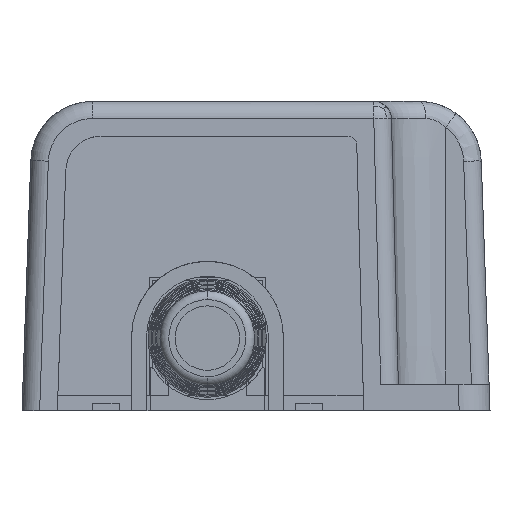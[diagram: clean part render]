
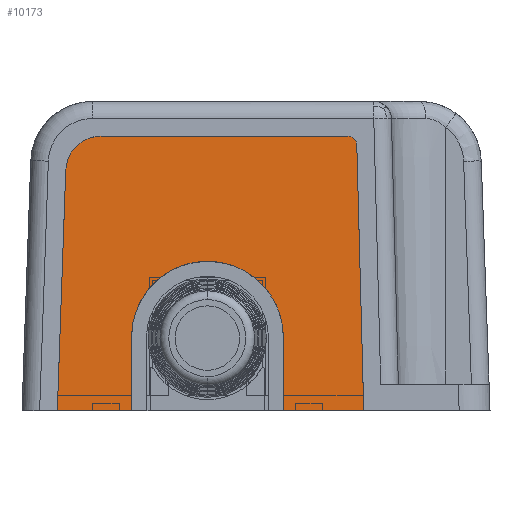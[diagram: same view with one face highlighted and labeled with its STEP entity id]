
A CAD part, left-side view. The second image highlights one B-rep face of the part: STEP entity #10173.
In plain terms, the highlighted planar face has unit normal (-0.999, 0, 0.035).
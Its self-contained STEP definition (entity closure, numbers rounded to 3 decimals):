
#3106=DIRECTION('',(0.,1.,0.));
#3107=VECTOR('',#3106,9.101);
#3108=CARTESIAN_POINT('',(-65.1,-11.201,
-0.494));
#3109=LINE('',#3108,#3107);
#3293=DIRECTION('',(0.035,0.,0.999));
#3294=VECTOR('',#3293,8.297);
#3295=CARTESIAN_POINT('',(-65.099,-2.1,
-0.492));
#3296=LINE('',#3295,#3294);
#3314=DIRECTION('',(-0.035,0.,-0.999));
#3315=VECTOR('',#3314,8.3);
#3316=CARTESIAN_POINT('',(-64.81,15.101,7.8));
#3317=LINE('',#3316,#3315);
#3321=CARTESIAN_POINT('',(-64.81,15.101,7.8));
#3322=CARTESIAN_POINT('',(-64.789,15.101,8.41));
#3323=CARTESIAN_POINT('',(-64.747,14.98,9.6));
#3324=CARTESIAN_POINT('',(-64.687,14.418,11.327));
#3325=CARTESIAN_POINT('',(-64.632,13.509,12.896));
#3326=CARTESIAN_POINT('',(-64.586,12.313,14.225));
#3327=CARTESIAN_POINT('',(-64.548,10.85,15.294));
#3328=CARTESIAN_POINT('',(-64.522,9.192,16.035));
#3329=CARTESIAN_POINT('',(-64.509,7.418,16.414));
#3330=CARTESIAN_POINT('',(-64.509,5.607,16.417));
#3331=CARTESIAN_POINT('',(-64.522,3.837,16.044));
#3332=CARTESIAN_POINT('',(-64.548,2.182,15.312));
#3333=CARTESIAN_POINT('',(-64.585,0.715,
14.251));
#3334=CARTESIAN_POINT('',(-64.631,-0.491,
12.921));
#3335=CARTESIAN_POINT('',(-64.686,-1.41,
11.346));
#3336=CARTESIAN_POINT('',(-64.747,-1.979,
9.608));
#3337=CARTESIAN_POINT('',(-64.789,-2.101,
8.413));
#3338=CARTESIAN_POINT('',(-64.81,-2.101,7.8));
#3343=DIRECTION('',(0.,-1.,0.));
#3344=VECTOR('',#3343,8.4);
#3345=CARTESIAN_POINT('',(-65.1,23.5,
-0.497));
#3346=LINE('',#3345,#3344);
#3350=DIRECTION('',(-0.035,0.035,-0.999));
#3351=VECTOR('',#3350,27.232);
#3352=CARTESIAN_POINT('',(-64.15,22.55,26.702));
#3353=LINE('',#3352,#3351);
#3357=CARTESIAN_POINT('',(-64.155,18.552,26.563));
#3358=DIRECTION('',(-0.999,0.,0.035));
#3359=DIRECTION('',(0.035,0.,0.999));
#3360=AXIS2_PLACEMENT_3D('',#3357,#3358,#3359);
#3365=CARTESIAN_POINT('',(-64.05,-9.413,
29.561));
#3366=DIRECTION('',(-0.999,0.,0.035));
#3367=DIRECTION('',(0.001,-1.,0.026));
#3368=AXIS2_PLACEMENT_3D('',#3365,#3366,#3367);
#3373=DIRECTION('',(0.035,0.026,0.999));
#3374=VECTOR('',#3373,30.11);
#3375=CARTESIAN_POINT('',(-65.1,-11.201,
-0.494));
#3376=LINE('',#3375,#3374);
#5868=DIRECTION('',(0.,-1.,0.));
#5869=VECTOR('',#5868,27.965);
#5870=CARTESIAN_POINT('',(-64.015,18.552,30.56));
#5871=LINE('',#5870,#5869);
#6672=CARTESIAN_POINT('',(-65.1,-11.201,
-0.494));
#6673=VERTEX_POINT('',#6672);
#6674=CARTESIAN_POINT('',(-64.049,-10.413,
29.587));
#6675=VERTEX_POINT('',#6674);
#7169=CARTESIAN_POINT('',(-64.015,18.552,30.56));
#7170=CARTESIAN_POINT('',(-64.015,-9.413,
30.56));
#7171=VERTEX_POINT('',#7169);
#7172=VERTEX_POINT('',#7170);
#7173=CARTESIAN_POINT('',(-64.15,22.55,26.702));
#7174=CARTESIAN_POINT('',(-65.1,23.5,
-0.497));
#7175=VERTEX_POINT('',#7173);
#7176=VERTEX_POINT('',#7174);
#7367=VERTEX_POINT('',#3321);
#7368=VERTEX_POINT('',#3338);
#7369=CARTESIAN_POINT('',(-65.1,15.1,
-0.494));
#7370=VERTEX_POINT('',#7369);
#7371=CARTESIAN_POINT('',(-65.099,-2.1,
-0.492));
#7372=VERTEX_POINT('',#7371);
#10151=CARTESIAN_POINT('',(-64.273,-0.15,
23.181));
#10152=DIRECTION('',(-0.999,0.,0.035));
#10153=DIRECTION('',(0.,-1.,0.));
#10154=AXIS2_PLACEMENT_3D('',#10151,#10152,#10153);
#10155=PLANE('',#10154);
#10156=ORIENTED_EDGE('',*,*,#10117,.T.);
#10157=ORIENTED_EDGE('',*,*,#10133,.F.);
#10158=ORIENTED_EDGE('',*,*,#10145,.T.);
#10159=ORIENTED_EDGE('',*,*,#7827,.F.);
#10161=ORIENTED_EDGE('',*,*,#10160,.F.);
#10163=ORIENTED_EDGE('',*,*,#10162,.F.);
#10165=ORIENTED_EDGE('',*,*,#10164,.T.);
#10167=ORIENTED_EDGE('',*,*,#10166,.F.);
#10169=ORIENTED_EDGE('',*,*,#10168,.F.);
#10170=ORIENTED_EDGE('',*,*,#10007,.T.);
#10171=EDGE_LOOP('',(#10156,#10157,#10158,#10159,#10161,#10163,#10165,#10167,
#10169,#10170));
#10172=FACE_OUTER_BOUND('',#10171,.F.);
#3339=B_SPLINE_CURVE_WITH_KNOTS('',3,(#3321,#3322,#3323,#3324,#3325,#3326,#3327,
#3328,#3329,#3330,#3331,#3332,#3333,#3334,#3335,#3336,#3337,#3338),
.UNSPECIFIED.,.F.,.F.,(4,1,1,1,1,1,1,1,1,1,1,1,1,1,1,4),(0.,0.067,
0.133,0.2,0.267,0.333,0.4,
0.467,0.533,0.6,0.667,0.733,
0.8,0.867,0.933,1.),.UNSPECIFIED.);
#3361=CIRCLE('',#3360,4.);
#3369=CIRCLE('',#3368,1.);
#7827=EDGE_CURVE('',#7176,#7370,#3346,.T.);
#10007=EDGE_CURVE('',#6673,#7372,#3109,.T.);
#10117=EDGE_CURVE('',#7372,#7368,#3296,.T.);
#10133=EDGE_CURVE('',#7367,#7368,#3339,.T.);
#10145=EDGE_CURVE('',#7367,#7370,#3317,.T.);
#10160=EDGE_CURVE('',#7175,#7176,#3353,.T.);
#10162=EDGE_CURVE('',#7171,#7175,#3361,.T.);
#10164=EDGE_CURVE('',#7171,#7172,#5871,.T.);
#10166=EDGE_CURVE('',#6675,#7172,#3369,.T.);
#10168=EDGE_CURVE('',#6673,#6675,#3376,.T.);
#10173=ADVANCED_FACE('',(#10172),#10155,.T.);
